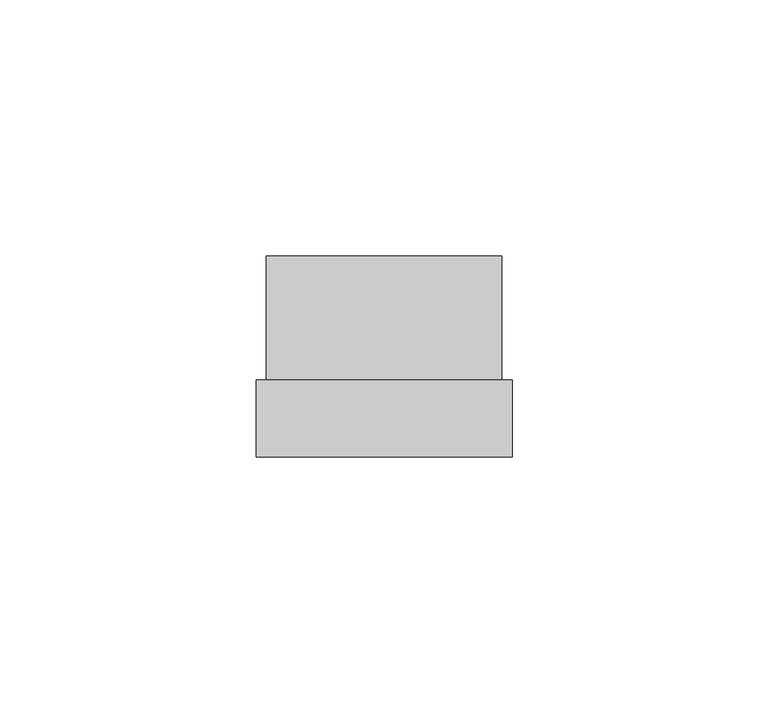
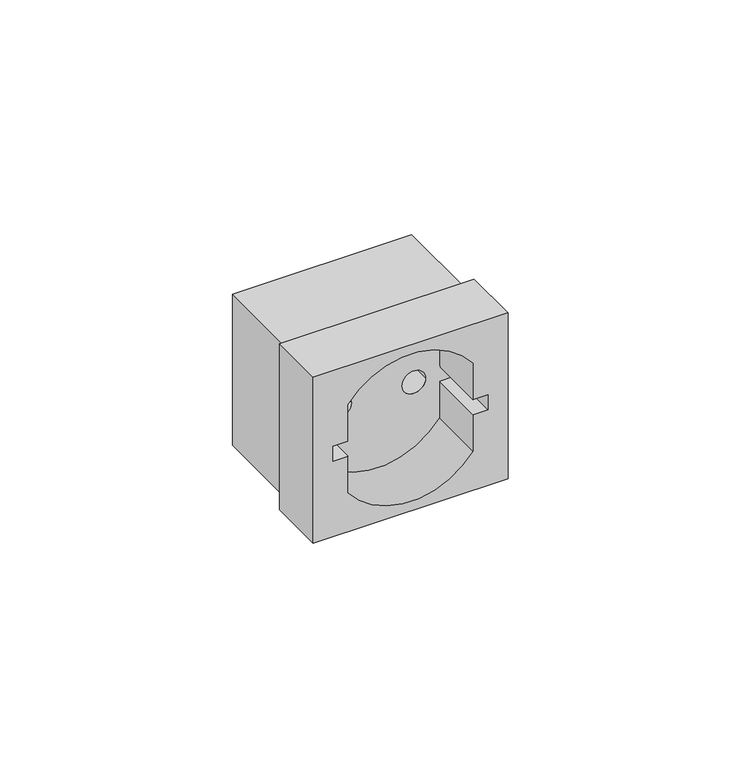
"""IFC4 building model written with IfcOpenShell, lengths in millimetres: proxy geometry, КНС_СиловыеЭлектрическиеРозеткиШтекерныеСЗаземлениемИСоШторками_DKC : Белый."""

from ifc_helpers import new_model, si_unit, frame, origin, place, context, project, spatial, polyline, circle_curve, source, transform, mapped, element, save
from ifc_brep_helpers import plane_surface, revolved_surface, advanced_brep


def electrical_fixtures_6e8f248d(model_context):
    return source(origin(), model_context, "Body", "AdvancedBrep", [
        advanced_brep(
        [(16.0533963, -24.3, 11.9284729), (-16.0533963, -24.3, 11.9284729), (-16.0533963, -24.3, 2.0334595), (-19.8963575, -24.3, 2.0334595), (-19.8963575, -24.3, -2.0334595), (-16.0533963, -24.3, -2.0334595), (-16.0533963, -24.3, -11.9284729), (16.0533963, -24.3, -11.9284729), (16.0533963, -24.3, -2.0334595), (19.8963575, -24.3, -2.0334595), (19.8963575, -24.3, 2.0334595), (16.0533963, -24.3, 2.0334595), (12.5564586, -24.3, 0.0), (6.4897194, -24.3, 0.0), (-6.4897194, -24.3, 0.0), (-12.5564586, -24.3, 0.0), (23.0, 0.0, 20.5), (23.0, 0.0, -20.5), (-23.0, 0.0, -20.5), (-23.0, 0.0, 20.5), (-23.0, -24.3, 20.5), (23.0, -24.3, 20.5), (-23.0, -24.3, -20.5), (23.0, -24.3, -20.5), (6.4897194, -10.5732864, 0.0), (12.5564586, -10.5732864, 0.0), (-12.5564586, -10.5732864, 0.0), (-6.4897194, -10.5732864, 0.0), (25.0, -39.3, 22.5), (-25.0, -39.3, 22.5), (-25.0, -39.3, -22.5), (25.0, -39.3, -22.5), (-16.0533963, -39.3, 11.9284729), (16.0533963, -39.3, 11.9284729), (16.0533963, -39.3, 2.0334595), (19.8963575, -39.3, 2.0334595), (19.8963575, -39.3, -2.0334595), (16.0533963, -39.3, -2.0334595), (16.0533963, -39.3, -11.9284729), (-16.0533963, -39.3, -11.9284729), (-16.0533963, -39.3, -2.0334595), (-19.8963575, -39.3, -2.0334595), (-19.8963575, -39.3, 2.0334595), (-16.0533963, -39.3, 2.0334595), (25.0, -24.3, 22.5), (25.0, -24.3, -22.5), (-25.0, -24.3, -22.5), (-25.0, -24.3, 22.5)],
        [
            (0, 1, circle_curve(frame((0.0, -24.3, 0.0), z_axis=(0.0, -1.0, 0.0), x_axis=(1.0, 0.0, 0.0)), 20.0)),
            (1, 2),
            (2, 3),
            (3, 4, circle_curve(frame((0.0, -24.3, 0.0), z_axis=(0.0, -1.0, 0.0), x_axis=(1.0, 0.0, 0.0)), 20.0)),
            (4, 5),
            (5, 6),
            (6, 7, circle_curve(frame((0.0, -24.3, 0.0), z_axis=(0.0, -1.0, 0.0), x_axis=(1.0, 0.0, 0.0)), 20.0)),
            (7, 8),
            (8, 9),
            (9, 10, circle_curve(frame((0.0, -24.3, 0.0), z_axis=(0.0, -1.0, 0.0), x_axis=(1.0, 0.0, 0.0)), 20.0)),
            (10, 11),
            (11, 0),
            (12, 13, circle_curve(frame((9.523089, -24.3, 0.0), z_axis=(0.0, 1.0, 0.0), x_axis=(1.0, 0.0, 0.0)), 3.0333696)),
            (13, 12, circle_curve(frame((9.523089, -24.3, 0.0), z_axis=(0.0, 1.0, 0.0), x_axis=(1.0, 0.0, 0.0)), 3.0333696)),
            (14, 15, circle_curve(frame((-9.523089, -24.3, 0.0), z_axis=(0.0, 1.0, 0.0), x_axis=(1.0, 0.0, 0.0)), 3.0333696)),
            (15, 14, circle_curve(frame((-9.523089, -24.3, 0.0), z_axis=(0.0, 1.0, 0.0), x_axis=(1.0, 0.0, 0.0)), 3.0333696)),
            (16, 17),
            (17, 18),
            (18, 19),
            (19, 16),
            (19, 20),
            (20, 21),
            (21, 16),
            (18, 22),
            (22, 20),
            (17, 23),
            (23, 22),
            (21, 23),
            (24, 25, circle_curve(frame((9.523089, -10.5732864, 0.0), z_axis=(0.0, -1.0, 0.0), x_axis=(1.0, 0.0, 0.0)), 3.0333696)),
            (25, 24, circle_curve(frame((9.523089, -10.5732864, 0.0), z_axis=(0.0, -1.0, 0.0), x_axis=(1.0, 0.0, 0.0)), 3.0333696)),
            (26, 27, circle_curve(frame((-9.523089, -10.5732864, 0.0), z_axis=(0.0, -1.0, 0.0), x_axis=(1.0, 0.0, 0.0)), 3.0333696)),
            (27, 26, circle_curve(frame((-9.523089, -10.5732864, 0.0), z_axis=(0.0, -1.0, 0.0), x_axis=(1.0, 0.0, 0.0)), 3.0333696)),
            (24, 13),
            (12, 25),
            (26, 15),
            (14, 27),
            (28, 29),
            (29, 30),
            (30, 31),
            (31, 28),
            (32, 33, circle_curve(frame((0.0, -39.3, 0.0), z_axis=(0.0, 1.0, 0.0), x_axis=(1.0, 0.0, 0.0)), 20.0)),
            (33, 34),
            (34, 35),
            (35, 36, circle_curve(frame((0.0, -39.3, 0.0), z_axis=(0.0, 1.0, 0.0), x_axis=(1.0, 0.0, 0.0)), 20.0)),
            (36, 37),
            (37, 38),
            (38, 39, circle_curve(frame((0.0, -39.3, 0.0), z_axis=(0.0, 1.0, 0.0), x_axis=(1.0, 0.0, 0.0)), 20.0)),
            (39, 40),
            (40, 41),
            (41, 42, circle_curve(frame((0.0, -39.3, 0.0), z_axis=(0.0, 1.0, 0.0), x_axis=(1.0, 0.0, 0.0)), 20.0)),
            (42, 43),
            (43, 32),
            (44, 45),
            (45, 46),
            (46, 47),
            (47, 44),
            (28, 44),
            (47, 29),
            (46, 30),
            (45, 31),
            (32, 1),
            (0, 33),
            (11, 34),
            (10, 35),
            (9, 36),
            (8, 37),
            (7, 38),
            (6, 39),
            (5, 40),
            (4, 41),
            (3, 42),
            (2, 43),
        ],
        [
            plane_surface(frame((-23.0, -24.3, 20.5), z_axis=(0.0, -1.0, 0.0), x_axis=(-1.0, 0.0, 0.0))),
            plane_surface(frame((-23.0, 0.0, 20.5), z_axis=(0.0, 1.0, 0.0), x_axis=(1.0, 0.0, 0.0))),
            plane_surface(frame((23.0, -24.3, 20.5), z_axis=(0.0, 0.0, 1.0), x_axis=(0.0, 1.0, 0.0))),
            plane_surface(frame((-23.0, -24.3, 20.5), z_axis=(-1.0, 0.0, 0.0), x_axis=(0.0, 1.0, 0.0))),
            plane_surface(frame((-23.0, -24.3, -20.5), z_axis=(0.0, 0.0, -1.0), x_axis=(0.0, 1.0, 0.0))),
            plane_surface(frame((23.0, -24.3, -20.5), z_axis=(1.0, 0.0, 0.0), x_axis=(0.0, 1.0, 0.0))),
            plane_surface(frame((12.5564586, -10.5732864, 0.0), z_axis=(0.0, -1.0, 0.0), x_axis=(0.0, 0.0, -1.0))),
            revolved_surface(polyline([(12.556458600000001, -24.3, 0.0), (12.556458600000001, -10.5732864, 0.0)]), (9.523089, -10.5732864, 0.0), (0.0, -1.0, 0.0)),
            revolved_surface(polyline([(-6.4897194, -24.3, 0.0), (-6.4897194, -10.5732864, 0.0)]), (-9.523089, 0.0, 0.0), (0.0, -1.0, 0.0)),
            plane_surface(frame((-25.0, -39.3, 22.5), z_axis=(0.0, -1.0, 0.0), x_axis=(-1.0, 0.0, 0.0))),
            plane_surface(frame((-25.0, -24.3, 22.5), z_axis=(0.0, 1.0, 0.0), x_axis=(1.0, 0.0, 0.0))),
            plane_surface(frame((25.0, -39.3, 22.5), z_axis=(0.0, 0.0, 1.0), x_axis=(0.0, 1.0, 0.0))),
            plane_surface(frame((-25.0, -39.3, 22.5), z_axis=(-1.0, 0.0, 0.0), x_axis=(0.0, 1.0, 0.0))),
            plane_surface(frame((-25.0, -39.3, -22.5), z_axis=(0.0, 0.0, -1.0), x_axis=(0.0, 1.0, 0.0))),
            plane_surface(frame((25.0, -39.3, -22.5), z_axis=(1.0, 0.0, 0.0), x_axis=(0.0, 1.0, 0.0))),
            revolved_surface(polyline([(20.0, -24.3, 0.0), (20.0, -39.3, 0.0)]), (0.0, 0.0, 0.0), (0.0, 1.0, 0.0)),
            plane_surface(frame((16.0533963, -39.3, 11.9284729), z_axis=(-1.0, 0.0, 0.0), x_axis=(0.0, 1.0, 0.0))),
            plane_surface(frame((16.0533963, -39.3, 2.0334595), z_axis=(0.0, 0.0, -1.0), x_axis=(0.0, 1.0, 0.0))),
            plane_surface(frame((19.8963575, -39.3, -2.0334595), z_axis=(0.0, 0.0, 1.0), x_axis=(0.0, 1.0, 0.0))),
            plane_surface(frame((16.0533963, -39.3, -2.0334595), z_axis=(-1.0, 0.0, 0.0), x_axis=(0.0, 1.0, 0.0))),
            plane_surface(frame((-16.0533963, -39.3, -11.9284729), z_axis=(1.0, 0.0, 0.0), x_axis=(0.0, 1.0, 0.0))),
            plane_surface(frame((-16.0533963, -39.3, -2.0334595), z_axis=(0.0, 0.0, 1.0), x_axis=(0.0, 1.0, 0.0))),
            plane_surface(frame((-19.8963575, -39.3, 2.0334595), z_axis=(0.0, 0.0, -1.0), x_axis=(0.0, 1.0, 0.0))),
            plane_surface(frame((-16.0533963, -39.3, 2.0334595), z_axis=(1.0, 0.0, 0.0), x_axis=(0.0, 1.0, 0.0))),
        ],
        [
            (0, [[1, 2, 3, 4, 5, 6, 7, 8, 9, 10, 11, 12], [13, 14], [15, 16]]),
            (1, [[17, 18, 19, 20]]),
            (2, [[-20, 21, 22, 23]]),
            (3, [[-19, 24, 25, -21]]),
            (4, [[-18, 26, 27, -24]]),
            (5, [[-17, -23, 28, -26]]),
            (6, [[29, 30]]),
            (6, [[31, 32]]),
            (7, [[-29, 33, -13, 34]]),
            (7, [[-30, -34, -14, -33]]),
            (8, [[-31, 35, -15, 36]]),
            (8, [[-32, -36, -16, -35]]),
            (9, [[37, 38, 39, 40], [41, 42, 43, 44, 45, 46, 47, 48, 49, 50, 51, 52]]),
            (10, [[53, 54, 55, 56], [-22, -25, -27, -28]]),
            (11, [[-37, 57, -56, 58]]),
            (12, [[-38, -58, -55, 59]]),
            (13, [[-39, -59, -54, 60]]),
            (14, [[-40, -60, -53, -57]]),
            (15, [[-41, 61, -1, 62]]),
            (16, [[-42, -62, -12, 63]]),
            (17, [[-43, -63, -11, 64]]),
            (15, [[-44, -64, -10, 65]]),
            (18, [[-45, -65, -9, 66]]),
            (19, [[-46, -66, -8, 67]]),
            (15, [[-47, -67, -7, 68]]),
            (20, [[-48, -68, -6, 69]]),
            (21, [[-49, -69, -5, 70]]),
            (15, [[-50, -70, -4, 71]]),
            (22, [[-51, -71, -3, 72]]),
            (23, [[-52, -72, -2, -61]]),
        ],
    ),
    ])


if __name__ == "__main__":
    model = new_model("IFC4")
    model_context = context("Model", 3, world=origin())
    ifc_project = project(units=[si_unit("LENGTHUNIT", "METRE", prefix="MILLI")], contexts=[model_context])
    site = spatial("IfcSite", under=ifc_project)
    building = spatial("IfcBuilding", under=site)
    placement = place(None, origin())
    electrical_fixtures_shape = electrical_fixtures_6e8f248d(model_context)
    element("IfcBuildingElementProxy", 1, Name="КНС_СиловыеЭлектрическиеРозеткиШтекерныеСЗаземлениемИСоШторками_DKC : Белый", ObjectType="КНС_СиловыеЭлектрическиеРозеткиШтекерныеСЗаземлениемИСоШторками_DKC : Белый", at=placement, inside=building, context=model_context, shape_type="MappedRepresentation", body=[
        mapped(electrical_fixtures_shape, transform((0.0, 0.0, 0.0), x_axis=(1.0, 0.0, 0.0), y_axis=(0.0, 1.0, 0.0), z_axis=(0.0, 0.0, 1.0))),
    ])
    save(model, "model.ifc")
